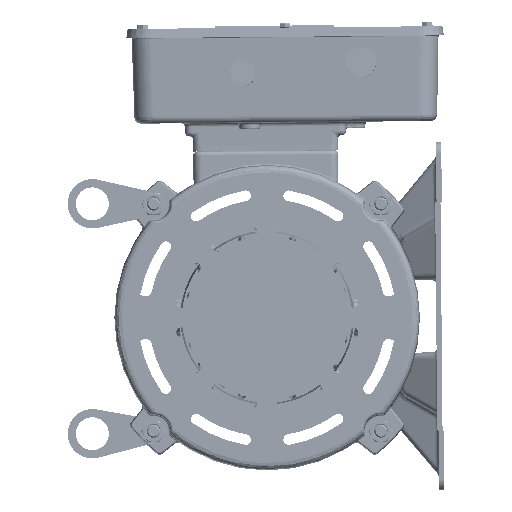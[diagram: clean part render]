
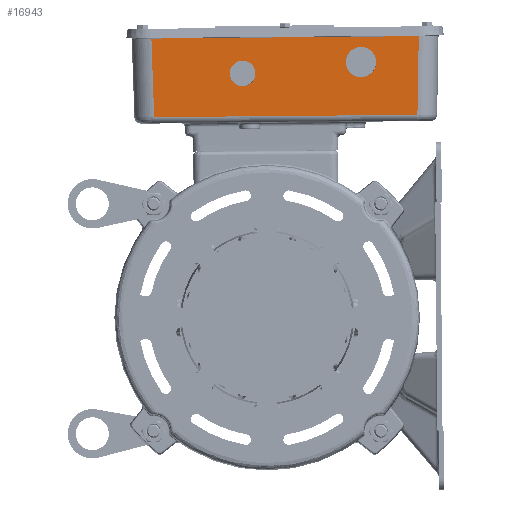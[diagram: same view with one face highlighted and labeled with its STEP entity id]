
A CAD part, left-side view. The second image highlights one B-rep face of the part: STEP entity #16943.
In plain terms, the highlighted planar face has unit normal (-1, 0, -0.026) as drawn and (-1, -0.026, 0) by its records, which use the part's own axes.
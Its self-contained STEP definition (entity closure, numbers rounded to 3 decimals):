
#986 = ORIENTED_EDGE ( 'NONE', *, *, #28199, .F. ) ;
#1052 = DIRECTION ( 'NONE',  ( -1., -0.026, 0. ) ) ;
#4173 = VERTEX_POINT ( 'NONE', #9927 ) ;
#4385 = VERTEX_POINT ( 'NONE', #29188 ) ;
#8084 = EDGE_CURVE ( 'NONE', #118663, #48066, #69757, .T. ) ;
#8183 = DIRECTION ( 'NONE',  ( -0.026, 1., 0. ) ) ;
#9927 = CARTESIAN_POINT ( 'NONE',  ( -360.582, 167.335, 73. ) ) ;
#11991 = DIRECTION ( 'NONE',  ( -1., -0.026, 0. ) ) ;
#15047 = CARTESIAN_POINT ( 'NONE',  ( -360.679, 171.035, -17. ) ) ;
#16569 = EDGE_LOOP ( 'NONE', ( #986, #69561 ) ) ;
#16943 = ADVANCED_FACE ( 'NONE', ( #26395, #63433, #100489 ), #17304, .T. ) ;
#17304 = PLANE ( 'NONE',  #86258 ) ;
#17870 = DIRECTION ( 'NONE',  ( -0.026, 0.999, -0.026 ) ) ;
#19246 = CIRCLE ( 'NONE', #87104, 11.5 ) ;
#20127 = DIRECTION ( 'NONE',  ( 0., 0., -1. ) ) ;
#21555 = VERTEX_POINT ( 'NONE', #29936 ) ;
#23072 = EDGE_CURVE ( 'NONE', #48066, #21555, #38355, .T. ) ;
#23659 = DIRECTION ( 'NONE',  ( 0.026, -0.999, -0.026 ) ) ;
#25413 = EDGE_CURVE ( 'NONE', #60051, #101687, #81948, .T. ) ;
#26200 = CARTESIAN_POINT ( 'NONE',  ( -361.184, 190.327, 73. ) ) ;
#26395 = FACE_BOUND ( 'NONE', #16569, .T. ) ;
#27652 = AXIS2_PLACEMENT_3D ( 'NONE', #84252, #1052, #38123 ) ;
#28199 = EDGE_CURVE ( 'NONE', #101687, #60051, #99824, .T. ) ;
#29188 = CARTESIAN_POINT ( 'NONE',  ( -361.389, 198.124, -85.993 ) ) ;
#29613 = AXIS2_PLACEMENT_3D ( 'NONE', #15047, #52068, #89101 ) ;
#29936 = CARTESIAN_POINT ( 'NONE',  ( -359.827, 138.475, -84.431 ) ) ;
#31595 = DIRECTION ( 'NONE',  ( 0.026, -1., 0. ) ) ;
#32544 = DIRECTION ( 'NONE',  ( 0., 0., 1. ) ) ;
#38123 = DIRECTION ( 'NONE',  ( 0.026, -1., 0. ) ) ;
#38355 = LINE ( 'NONE', #103300, #116593 ) ;
#42962 = EDGE_CURVE ( 'NONE', #4385, #118663, #78648, .T. ) ;
#44336 = VECTOR ( 'NONE', #17870, 1000. ) ;
#45187 = EDGE_CURVE ( 'NONE', #83263, #4173, #19246, .T. ) ;
#47476 = AXIS2_PLACEMENT_3D ( 'NONE', #95192, #11991, #49029 ) ;
#48066 = VERTEX_POINT ( 'NONE', #92385 ) ;
#49029 = DIRECTION ( 'NONE',  ( 0.026, -1., 0. ) ) ;
#51249 = ORIENTED_EDGE ( 'NONE', *, *, #42962, .F. ) ;
#52068 = DIRECTION ( 'NONE',  ( -1., -0.026, 0. ) ) ;
#53558 = ORIENTED_EDGE ( 'NONE', *, *, #45187, .F. ) ;
#54348 = CARTESIAN_POINT ( 'NONE',  ( -361.401, 198.606, -101. ) ) ;
#56127 = ORIENTED_EDGE ( 'NONE', *, *, #113493, .F. ) ;
#58533 = ORIENTED_EDGE ( 'NONE', *, *, #23072, .F. ) ;
#60051 = VERTEX_POINT ( 'NONE', #70640 ) ;
#63433 = FACE_BOUND ( 'NONE', #120267, .T. ) ;
#64005 = LINE ( 'NONE', #101056, #44336 ) ;
#69561 = ORIENTED_EDGE ( 'NONE', *, *, #25413, .F. ) ;
#69757 = LINE ( 'NONE', #106841, #117512 ) ;
#70640 = CARTESIAN_POINT ( 'NONE',  ( -360.934, 180.755, -17. ) ) ;
#76574 = CARTESIAN_POINT ( 'NONE',  ( -361.389, 198.124, 116.993 ) ) ;
#77732 = CARTESIAN_POINT ( 'NONE',  ( -360.883, 178.831, 73. ) ) ;
#78648 = LINE ( 'NONE', #115749, #92969 ) ;
#79958 = CIRCLE ( 'NONE', #27652, 11.5 ) ;
#81091 = EDGE_CURVE ( 'NONE', #21555, #4385, #64005, .T. ) ;
#81948 = CIRCLE ( 'NONE', #29613, 9.723 ) ;
#83263 = VERTEX_POINT ( 'NONE', #26200 ) ;
#83998 = CARTESIAN_POINT ( 'NONE',  ( -360.425, 161.315, -17. ) ) ;
#84252 = CARTESIAN_POINT ( 'NONE',  ( -360.883, 178.831, 73. ) ) ;
#85551 = ORIENTED_EDGE ( 'NONE', *, *, #81091, .F. ) ;
#86258 = AXIS2_PLACEMENT_3D ( 'NONE', #54348, #91368, #8183 ) ;
#87104 = AXIS2_PLACEMENT_3D ( 'NONE', #77732, #114816, #31595 ) ;
#89101 = DIRECTION ( 'NONE',  ( 0.026, -1., 0. ) ) ;
#90294 = EDGE_LOOP ( 'NONE', ( #58533, #103032, #51249, #85551 ) ) ;
#91368 = DIRECTION ( 'NONE',  ( -1., -0.026, 0. ) ) ;
#92385 = CARTESIAN_POINT ( 'NONE',  ( -359.827, 138.475, 115.431 ) ) ;
#92969 = VECTOR ( 'NONE', #32544, 1000. ) ;
#95192 = CARTESIAN_POINT ( 'NONE',  ( -360.679, 171.035, -17. ) ) ;
#99824 = CIRCLE ( 'NONE', #47476, 9.723 ) ;
#100489 = FACE_OUTER_BOUND ( 'NONE', #90294, .T. ) ;
#101056 = CARTESIAN_POINT ( 'NONE',  ( -361.412, 198.998, -86.015 ) ) ;
#101687 = VERTEX_POINT ( 'NONE', #83998 ) ;
#103032 = ORIENTED_EDGE ( 'NONE', *, *, #8084, .F. ) ;
#103300 = CARTESIAN_POINT ( 'NONE',  ( -359.827, 138.475, -84.303 ) ) ;
#106841 = CARTESIAN_POINT ( 'NONE',  ( -361.252, 192.905, 116.856 ) ) ;
#113493 = EDGE_CURVE ( 'NONE', #4173, #83263, #79958, .T. ) ;
#114816 = DIRECTION ( 'NONE',  ( -1., -0.026, 0. ) ) ;
#115749 = CARTESIAN_POINT ( 'NONE',  ( -361.389, 198.124, 117.005 ) ) ;
#116593 = VECTOR ( 'NONE', #20127, 1000. ) ;
#117512 = VECTOR ( 'NONE', #23659, 1000. ) ;
#118663 = VERTEX_POINT ( 'NONE', #76574 ) ;
#120267 = EDGE_LOOP ( 'NONE', ( #56127, #53558 ) ) ;
